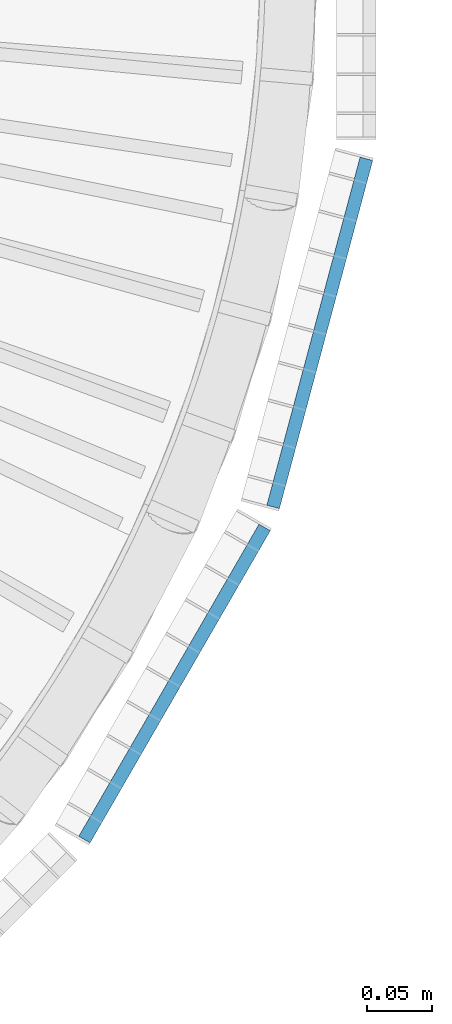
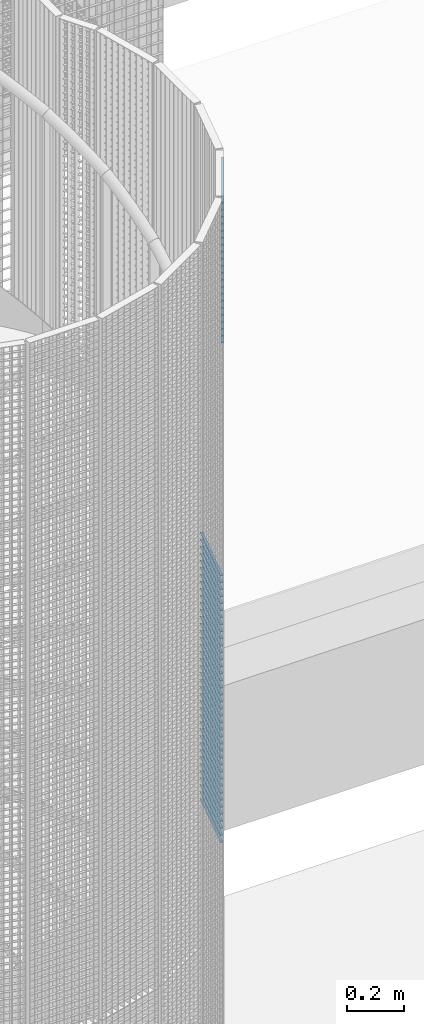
# One storey, part 221 of 1148: 60 beams, 2 elements without a shape of their own.
"""IFC2X3 building model written with IfcOpenShell, lengths in millimetres."""

from ifc_helpers import new_model, si_unit, frame, origin_with_axes, origin_2d_with_axis, place, context, subcontext, project, spatial, rectangle, extrude, material, type_object, element, aggregate, save


model = new_model("IFC2X3")

# Units and contexts
model_context = context("Model", 3, precision=1e-05, world=origin_with_axes())
body_context = subcontext(model_context, "Body", "Model", "MODEL_VIEW")
ifc_project = project(units=[si_unit("LENGTHUNIT", "METRE", prefix="MILLI"), si_unit("AREAUNIT", "SQUARE_METRE"), si_unit("VOLUMEUNIT", "CUBIC_METRE"), si_unit("MASSUNIT", "GRAM", prefix="KILO"), si_unit("TIMEUNIT", "SECOND"), si_unit("PLANEANGLEUNIT", "RADIAN"), si_unit("SOLIDANGLEUNIT", "STERADIAN"), si_unit("THERMODYNAMICTEMPERATUREUNIT", "DEGREE_CELSIUS"), si_unit("LUMINOUSINTENSITYUNIT", "LUMEN")], contexts=[model_context])

# Site, building, storey
site_placement = place(None, origin_with_axes())
site = spatial("IfcSite", under=ifc_project, at=site_placement, Name="Undefined", CompositionType="ELEMENT")
building_placement = place(site_placement, origin_with_axes())
building = spatial("IfcBuilding", under=site, at=building_placement, Name="Undefined", CompositionType="ELEMENT")
storey_placement = place(building_placement, origin_with_axes())
storey = spatial("IfcBuildingStorey", under=building, at=storey_placement, Name="Undefined", CompositionType="ELEMENT", Elevation=0.0)

# Assembly, beams
assembly_1_placement = place(storey_placement, origin_with_axes())
assembly_1 = element("IfcElementAssembly", 1, at=assembly_1_placement, inside=storey, Name="BORDURE", AssemblyPlace="NOTDEFINED", PredefinedType="NOTDEFINED")
ifc_material = material(Name="STEEL/S235JR")
beam_type = type_object("IfcBeamType", Name="PL2*10", PredefinedType="NOTDEFINED")
beam_1_placement = place(assembly_1_placement, frame((1039.82309522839, -421.483733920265, 16170.0), z_axis=(0.965925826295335, -0.258819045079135, 0.0), x_axis=(0.258819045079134, 0.965925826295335, 0.0)))
beam_1 = element("IfcBeam", 2, at=beam_1_placement, type_object=beam_type, material=ifc_material, Name="ENTRETOISE", context=body_context, shape_type="SweptSolid", body=[
    extrude(rectangle(XDim=2.0, YDim=10.0, at=origin_2d_with_axis()), frame((275.999999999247, 9.09494701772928e-13, 1.53210777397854e-14), z_axis=(-1.0, 0.0, 0.0), x_axis=(0.0, -1.0, 0.0)), (0.0, 0.0, 1.0), 276.0),
])
beam_2_placement = place(assembly_1_placement, frame((1039.82309522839, -421.483733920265, 16140.0), z_axis=(0.965925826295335, -0.258819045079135, 0.0), x_axis=(0.258819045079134, 0.965925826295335, 0.0)))
beam_2 = element("IfcBeam", 3, at=beam_2_placement, type_object=beam_type, material=ifc_material, Name="ENTRETOISE", context=body_context, shape_type="SweptSolid", body=[
    extrude(rectangle(XDim=2.0, YDim=10.0, at=origin_2d_with_axis()), frame((275.999999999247, 9.09494701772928e-13, 1.53210777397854e-14), z_axis=(-1.0, 0.0, 0.0), x_axis=(0.0, -1.0, 0.0)), (0.0, 0.0, 1.0), 276.0),
])
beam_3_placement = place(assembly_1_placement, frame((1039.82309522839, -421.483733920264, 15720.0), z_axis=(0.965925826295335, -0.258819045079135, 0.0), x_axis=(0.258819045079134, 0.965925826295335, 0.0)))
beam_3 = element("IfcBeam", 4, at=beam_3_placement, type_object=beam_type, material=ifc_material, Name="ENTRETOISE", context=body_context, shape_type="SweptSolid", body=[
    extrude(rectangle(XDim=2.0, YDim=10.0, at=origin_2d_with_axis()), frame((275.999999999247, 9.09494701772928e-13, 1.53210777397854e-14), z_axis=(-1.0, 0.0, 0.0), x_axis=(0.0, -1.0, 0.0)), (0.0, 0.0, 1.0), 276.0),
])
beam_4_placement = place(assembly_1_placement, frame((1039.82309522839, -421.483733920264, 15690.0), z_axis=(0.965925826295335, -0.258819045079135, 0.0), x_axis=(0.258819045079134, 0.965925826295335, 0.0)))
beam_4 = element("IfcBeam", 5, at=beam_4_placement, type_object=beam_type, material=ifc_material, Name="ENTRETOISE", context=body_context, shape_type="SweptSolid", body=[
    extrude(rectangle(XDim=2.0, YDim=10.0, at=origin_2d_with_axis()), frame((275.999999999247, 9.09494701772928e-13, 1.53210777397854e-14), z_axis=(-1.0, 0.0, 0.0), x_axis=(0.0, -1.0, 0.0)), (0.0, 0.0, 1.0), 276.0),
])
beam_5_placement = place(assembly_1_placement, frame((1039.82309522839, -421.483733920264, 15750.0), z_axis=(0.965925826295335, -0.258819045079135, 0.0), x_axis=(0.258819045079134, 0.965925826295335, 0.0)))
beam_5 = element("IfcBeam", 6, at=beam_5_placement, type_object=beam_type, material=ifc_material, Name="ENTRETOISE", context=body_context, shape_type="SweptSolid", body=[
    extrude(rectangle(XDim=2.0, YDim=10.0, at=origin_2d_with_axis()), frame((275.999999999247, 9.09494701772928e-13, 1.53210777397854e-14), z_axis=(-1.0, 0.0, 0.0), x_axis=(0.0, -1.0, 0.0)), (0.0, 0.0, 1.0), 276.0),
])
beam_6_placement = place(assembly_1_placement, frame((1039.82309522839, -421.483733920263, 15660.0), z_axis=(0.965925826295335, -0.258819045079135, 0.0), x_axis=(0.258819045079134, 0.965925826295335, 0.0)))
beam_6 = element("IfcBeam", 7, at=beam_6_placement, type_object=beam_type, material=ifc_material, Name="ENTRETOISE", context=body_context, shape_type="SweptSolid", body=[
    extrude(rectangle(XDim=2.0, YDim=10.0, at=origin_2d_with_axis()), frame((275.999999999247, 9.09494701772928e-13, 1.53210777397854e-14), z_axis=(-1.0, 0.0, 0.0), x_axis=(0.0, -1.0, 0.0)), (0.0, 0.0, 1.0), 276.0),
])
beam_7_placement = place(assembly_1_placement, frame((1039.82309522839, -421.483733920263, 15630.0), z_axis=(0.965925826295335, -0.258819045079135, 0.0), x_axis=(0.258819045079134, 0.965925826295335, 0.0)))
beam_7 = element("IfcBeam", 8, at=beam_7_placement, type_object=beam_type, material=ifc_material, Name="ENTRETOISE", context=body_context, shape_type="SweptSolid", body=[
    extrude(rectangle(XDim=2.0, YDim=10.0, at=origin_2d_with_axis()), frame((275.999999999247, 9.09494701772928e-13, 1.53210777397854e-14), z_axis=(-1.0, 0.0, 0.0), x_axis=(0.0, -1.0, 0.0)), (0.0, 0.0, 1.0), 276.0),
])
beam_8_placement = place(assembly_1_placement, frame((1039.82309522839, -421.483733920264, 15780.0), z_axis=(0.965925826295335, -0.258819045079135, 0.0), x_axis=(0.258819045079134, 0.965925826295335, 0.0)))
beam_8 = element("IfcBeam", 9, at=beam_8_placement, type_object=beam_type, material=ifc_material, Name="ENTRETOISE", context=body_context, shape_type="SweptSolid", body=[
    extrude(rectangle(XDim=2.0, YDim=10.0, at=origin_2d_with_axis()), frame((275.999999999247, 9.09494701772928e-13, 1.53210777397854e-14), z_axis=(-1.0, 0.0, 0.0), x_axis=(0.0, -1.0, 0.0)), (0.0, 0.0, 1.0), 276.0),
])
beam_9_placement = place(assembly_1_placement, frame((1039.82309522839, -421.483733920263, 15600.0), z_axis=(0.965925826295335, -0.258819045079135, 0.0), x_axis=(0.258819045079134, 0.965925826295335, 0.0)))
beam_9 = element("IfcBeam", 10, at=beam_9_placement, type_object=beam_type, material=ifc_material, Name="ENTRETOISE", context=body_context, shape_type="SweptSolid", body=[
    extrude(rectangle(XDim=2.0, YDim=10.0, at=origin_2d_with_axis()), frame((275.999999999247, 9.09494701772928e-13, 1.53210777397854e-14), z_axis=(-1.0, 0.0, 0.0), x_axis=(0.0, -1.0, 0.0)), (0.0, 0.0, 1.0), 276.0),
])
beam_10_placement = place(assembly_1_placement, frame((1039.82309522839, -421.483733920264, 15810.0), z_axis=(0.965925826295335, -0.258819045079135, 0.0), x_axis=(0.258819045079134, 0.965925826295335, 0.0)))
beam_10 = element("IfcBeam", 11, at=beam_10_placement, type_object=beam_type, material=ifc_material, Name="ENTRETOISE", context=body_context, shape_type="SweptSolid", body=[
    extrude(rectangle(XDim=2.0, YDim=10.0, at=origin_2d_with_axis()), frame((275.999999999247, 9.09494701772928e-13, 1.53210777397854e-14), z_axis=(-1.0, 0.0, 0.0), x_axis=(0.0, -1.0, 0.0)), (0.0, 0.0, 1.0), 276.0),
])
beam_11_placement = place(assembly_1_placement, frame((1039.82309522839, -421.483733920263, 15570.0), z_axis=(0.965925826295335, -0.258819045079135, 0.0), x_axis=(0.258819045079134, 0.965925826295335, 0.0)))
beam_11 = element("IfcBeam", 12, at=beam_11_placement, type_object=beam_type, material=ifc_material, Name="ENTRETOISE", context=body_context, shape_type="SweptSolid", body=[
    extrude(rectangle(XDim=2.0, YDim=10.0, at=origin_2d_with_axis()), frame((275.999999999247, 9.09494701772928e-13, 1.53210777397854e-14), z_axis=(-1.0, 0.0, 0.0), x_axis=(0.0, -1.0, 0.0)), (0.0, 0.0, 1.0), 276.0),
])
beam_12_placement = place(assembly_1_placement, frame((1039.82309522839, -421.483733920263, 15540.0), z_axis=(0.965925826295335, -0.258819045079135, 0.0), x_axis=(0.258819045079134, 0.965925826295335, 0.0)))
beam_12 = element("IfcBeam", 13, at=beam_12_placement, type_object=beam_type, material=ifc_material, Name="ENTRETOISE", context=body_context, shape_type="SweptSolid", body=[
    extrude(rectangle(XDim=2.0, YDim=10.0, at=origin_2d_with_axis()), frame((275.999999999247, 9.09494701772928e-13, 1.53210777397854e-14), z_axis=(-1.0, 0.0, 0.0), x_axis=(0.0, -1.0, 0.0)), (0.0, 0.0, 1.0), 276.0),
])
beam_13_placement = place(assembly_1_placement, frame((1039.82309522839, -421.483733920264, 15840.0), z_axis=(0.965925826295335, -0.258819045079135, 0.0), x_axis=(0.258819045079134, 0.965925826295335, 0.0)))
beam_13 = element("IfcBeam", 14, at=beam_13_placement, type_object=beam_type, material=ifc_material, Name="ENTRETOISE", context=body_context, shape_type="SweptSolid", body=[
    extrude(rectangle(XDim=2.0, YDim=10.0, at=origin_2d_with_axis()), frame((275.999999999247, 9.09494701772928e-13, 1.53210777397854e-14), z_axis=(-1.0, 0.0, 0.0), x_axis=(0.0, -1.0, 0.0)), (0.0, 0.0, 1.0), 276.0),
])
beam_14_placement = place(assembly_1_placement, frame((1039.82309522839, -421.483733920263, 15510.0), z_axis=(0.965925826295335, -0.258819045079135, 0.0), x_axis=(0.258819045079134, 0.965925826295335, 0.0)))
beam_14 = element("IfcBeam", 15, at=beam_14_placement, type_object=beam_type, material=ifc_material, Name="ENTRETOISE", context=body_context, shape_type="SweptSolid", body=[
    extrude(rectangle(XDim=2.0, YDim=10.0, at=origin_2d_with_axis()), frame((275.999999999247, 9.09494701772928e-13, 1.53210777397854e-14), z_axis=(-1.0, 0.0, 0.0), x_axis=(0.0, -1.0, 0.0)), (0.0, 0.0, 1.0), 276.0),
])
beam_15_placement = place(assembly_1_placement, frame((1039.82309522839, -421.483733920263, 15480.0), z_axis=(0.965925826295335, -0.258819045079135, 0.0), x_axis=(0.258819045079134, 0.965925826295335, 0.0)))
beam_15 = element("IfcBeam", 16, at=beam_15_placement, type_object=beam_type, material=ifc_material, Name="ENTRETOISE", context=body_context, shape_type="SweptSolid", body=[
    extrude(rectangle(XDim=2.0, YDim=10.0, at=origin_2d_with_axis()), frame((275.999999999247, 9.09494701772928e-13, 1.53210777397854e-14), z_axis=(-1.0, 0.0, 0.0), x_axis=(0.0, -1.0, 0.0)), (0.0, 0.0, 1.0), 276.0),
])
beam_16_placement = place(assembly_1_placement, frame((1039.82309522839, -421.483733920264, 15870.0), z_axis=(0.965925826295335, -0.258819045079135, 0.0), x_axis=(0.258819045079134, 0.965925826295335, 0.0)))
beam_16 = element("IfcBeam", 17, at=beam_16_placement, type_object=beam_type, material=ifc_material, Name="ENTRETOISE", context=body_context, shape_type="SweptSolid", body=[
    extrude(rectangle(XDim=2.0, YDim=10.0, at=origin_2d_with_axis()), frame((275.999999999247, 9.09494701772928e-13, 1.53210777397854e-14), z_axis=(-1.0, 0.0, 0.0), x_axis=(0.0, -1.0, 0.0)), (0.0, 0.0, 1.0), 276.0),
])
beam_17_placement = place(assembly_1_placement, frame((1039.82309522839, -421.483733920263, 15450.0), z_axis=(0.965925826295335, -0.258819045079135, 0.0), x_axis=(0.258819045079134, 0.965925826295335, 0.0)))
beam_17 = element("IfcBeam", 18, at=beam_17_placement, type_object=beam_type, material=ifc_material, Name="ENTRETOISE", context=body_context, shape_type="SweptSolid", body=[
    extrude(rectangle(XDim=2.0, YDim=10.0, at=origin_2d_with_axis()), frame((275.999999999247, 9.09494701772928e-13, 1.53210777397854e-14), z_axis=(-1.0, 0.0, 0.0), x_axis=(0.0, -1.0, 0.0)), (0.0, 0.0, 1.0), 276.0),
])
beam_18_placement = place(assembly_1_placement, frame((1039.82309522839, -421.483733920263, 15420.0), z_axis=(0.965925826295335, -0.258819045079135, 0.0), x_axis=(0.258819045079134, 0.965925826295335, 0.0)))
beam_18 = element("IfcBeam", 19, at=beam_18_placement, type_object=beam_type, material=ifc_material, Name="ENTRETOISE", context=body_context, shape_type="SweptSolid", body=[
    extrude(rectangle(XDim=2.0, YDim=10.0, at=origin_2d_with_axis()), frame((275.999999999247, 9.09494701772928e-13, 1.53210777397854e-14), z_axis=(-1.0, 0.0, 0.0), x_axis=(0.0, -1.0, 0.0)), (0.0, 0.0, 1.0), 276.0),
])
beam_19_placement = place(assembly_1_placement, frame((1039.82309522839, -421.483733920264, 15900.0), z_axis=(0.965925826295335, -0.258819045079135, 0.0), x_axis=(0.258819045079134, 0.965925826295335, 0.0)))
beam_19 = element("IfcBeam", 20, at=beam_19_placement, type_object=beam_type, material=ifc_material, Name="ENTRETOISE", context=body_context, shape_type="SweptSolid", body=[
    extrude(rectangle(XDim=2.0, YDim=10.0, at=origin_2d_with_axis()), frame((275.999999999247, 9.09494701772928e-13, 1.53210777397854e-14), z_axis=(-1.0, 0.0, 0.0), x_axis=(0.0, -1.0, 0.0)), (0.0, 0.0, 1.0), 276.0),
])
beam_20_placement = place(assembly_1_placement, frame((1039.82309522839, -421.483733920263, 15390.0), z_axis=(0.965925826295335, -0.258819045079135, 0.0), x_axis=(0.258819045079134, 0.965925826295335, 0.0)))
beam_20 = element("IfcBeam", 21, at=beam_20_placement, type_object=beam_type, material=ifc_material, Name="ENTRETOISE", context=body_context, shape_type="SweptSolid", body=[
    extrude(rectangle(XDim=2.0, YDim=10.0, at=origin_2d_with_axis()), frame((275.999999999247, 9.09494701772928e-13, 1.53210777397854e-14), z_axis=(-1.0, 0.0, 0.0), x_axis=(0.0, -1.0, 0.0)), (0.0, 0.0, 1.0), 276.0),
])
beam_21_placement = place(assembly_1_placement, frame((1039.82309522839, -421.483733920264, 15930.0), z_axis=(0.965925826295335, -0.258819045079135, 0.0), x_axis=(0.258819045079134, 0.965925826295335, 0.0)))
beam_21 = element("IfcBeam", 22, at=beam_21_placement, type_object=beam_type, material=ifc_material, Name="ENTRETOISE", context=body_context, shape_type="SweptSolid", body=[
    extrude(rectangle(XDim=2.0, YDim=10.0, at=origin_2d_with_axis()), frame((275.999999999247, 9.09494701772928e-13, 1.53210777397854e-14), z_axis=(-1.0, 0.0, 0.0), x_axis=(0.0, -1.0, 0.0)), (0.0, 0.0, 1.0), 276.0),
])
beam_22_placement = place(assembly_1_placement, frame((1039.82309522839, -421.483733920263, 15360.0), z_axis=(0.965925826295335, -0.258819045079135, 0.0), x_axis=(0.258819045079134, 0.965925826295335, 0.0)))
beam_22 = element("IfcBeam", 23, at=beam_22_placement, type_object=beam_type, material=ifc_material, Name="ENTRETOISE", context=body_context, shape_type="SweptSolid", body=[
    extrude(rectangle(XDim=2.0, YDim=10.0, at=origin_2d_with_axis()), frame((275.999999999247, 9.09494701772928e-13, 1.53210777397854e-14), z_axis=(-1.0, 0.0, 0.0), x_axis=(0.0, -1.0, 0.0)), (0.0, 0.0, 1.0), 276.0),
])
beam_23_placement = place(assembly_1_placement, frame((1039.82309522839, -421.483733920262, 15330.0), z_axis=(0.965925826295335, -0.258819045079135, 0.0), x_axis=(0.258819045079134, 0.965925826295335, 0.0)))
beam_23 = element("IfcBeam", 24, at=beam_23_placement, type_object=beam_type, material=ifc_material, Name="ENTRETOISE", context=body_context, shape_type="SweptSolid", body=[
    extrude(rectangle(XDim=2.0, YDim=10.0, at=origin_2d_with_axis()), frame((275.999999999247, 9.09494701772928e-13, 1.53210777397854e-14), z_axis=(-1.0, 0.0, 0.0), x_axis=(0.0, -1.0, 0.0)), (0.0, 0.0, 1.0), 276.0),
])
beam_24_placement = place(assembly_1_placement, frame((1039.82309522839, -421.483733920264, 15960.0), z_axis=(0.965925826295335, -0.258819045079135, 0.0), x_axis=(0.258819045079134, 0.965925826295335, 0.0)))
beam_24 = element("IfcBeam", 25, at=beam_24_placement, type_object=beam_type, material=ifc_material, Name="ENTRETOISE", context=body_context, shape_type="SweptSolid", body=[
    extrude(rectangle(XDim=2.0, YDim=10.0, at=origin_2d_with_axis()), frame((275.999999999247, 9.09494701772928e-13, 1.53210777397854e-14), z_axis=(-1.0, 0.0, 0.0), x_axis=(0.0, -1.0, 0.0)), (0.0, 0.0, 1.0), 276.0),
])
beam_25_placement = place(assembly_1_placement, frame((1039.82309522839, -421.483733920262, 15300.0), z_axis=(0.965925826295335, -0.258819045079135, 0.0), x_axis=(0.258819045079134, 0.965925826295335, 0.0)))
beam_25 = element("IfcBeam", 26, at=beam_25_placement, type_object=beam_type, material=ifc_material, Name="ENTRETOISE", context=body_context, shape_type="SweptSolid", body=[
    extrude(rectangle(XDim=2.0, YDim=10.0, at=origin_2d_with_axis()), frame((275.999999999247, 9.09494701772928e-13, 1.53210777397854e-14), z_axis=(-1.0, 0.0, 0.0), x_axis=(0.0, -1.0, 0.0)), (0.0, 0.0, 1.0), 276.0),
])
beam_26_placement = place(assembly_1_placement, frame((1039.82309522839, -421.483733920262, 15270.0), z_axis=(0.965925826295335, -0.258819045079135, 0.0), x_axis=(0.258819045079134, 0.965925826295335, 0.0)))
beam_26 = element("IfcBeam", 27, at=beam_26_placement, type_object=beam_type, material=ifc_material, Name="ENTRETOISE", context=body_context, shape_type="SweptSolid", body=[
    extrude(rectangle(XDim=2.0, YDim=10.0, at=origin_2d_with_axis()), frame((275.999999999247, 9.09494701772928e-13, 1.53210777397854e-14), z_axis=(-1.0, 0.0, 0.0), x_axis=(0.0, -1.0, 0.0)), (0.0, 0.0, 1.0), 276.0),
])
beam_27_placement = place(assembly_1_placement, frame((1039.82309522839, -421.483733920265, 15990.0), z_axis=(0.965925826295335, -0.258819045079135, 0.0), x_axis=(0.258819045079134, 0.965925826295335, 0.0)))
beam_27 = element("IfcBeam", 28, at=beam_27_placement, type_object=beam_type, material=ifc_material, Name="ENTRETOISE", context=body_context, shape_type="SweptSolid", body=[
    extrude(rectangle(XDim=2.0, YDim=10.0, at=origin_2d_with_axis()), frame((275.999999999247, 9.09494701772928e-13, 1.53210777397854e-14), z_axis=(-1.0, 0.0, 0.0), x_axis=(0.0, -1.0, 0.0)), (0.0, 0.0, 1.0), 276.0),
])
beam_28_placement = place(assembly_1_placement, frame((1039.82309522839, -421.483733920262, 15240.0), z_axis=(0.965925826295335, -0.258819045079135, 0.0), x_axis=(0.258819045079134, 0.965925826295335, 0.0)))
beam_28 = element("IfcBeam", 29, at=beam_28_placement, type_object=beam_type, material=ifc_material, Name="ENTRETOISE", context=body_context, shape_type="SweptSolid", body=[
    extrude(rectangle(XDim=2.0, YDim=10.0, at=origin_2d_with_axis()), frame((275.999999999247, 9.09494701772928e-13, 1.53210777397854e-14), z_axis=(-1.0, 0.0, 0.0), x_axis=(0.0, -1.0, 0.0)), (0.0, 0.0, 1.0), 276.0),
])
beam_29_placement = place(assembly_1_placement, frame((1039.82309522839, -421.483733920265, 16020.0), z_axis=(0.965925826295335, -0.258819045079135, 0.0), x_axis=(0.258819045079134, 0.965925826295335, 0.0)))
beam_29 = element("IfcBeam", 30, at=beam_29_placement, type_object=beam_type, material=ifc_material, Name="ENTRETOISE", context=body_context, shape_type="SweptSolid", body=[
    extrude(rectangle(XDim=2.0, YDim=10.0, at=origin_2d_with_axis()), frame((275.999999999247, 9.09494701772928e-13, 1.53210777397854e-14), z_axis=(-1.0, 0.0, 0.0), x_axis=(0.0, -1.0, 0.0)), (0.0, 0.0, 1.0), 276.0),
])
beam_30_placement = place(assembly_1_placement, frame((1039.82309522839, -421.483733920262, 15210.0), z_axis=(0.965925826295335, -0.258819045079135, 0.0), x_axis=(0.258819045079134, 0.965925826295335, 0.0)))
beam_30 = element("IfcBeam", 31, at=beam_30_placement, type_object=beam_type, material=ifc_material, Name="ENTRETOISE", context=body_context, shape_type="SweptSolid", body=[
    extrude(rectangle(XDim=2.0, YDim=10.0, at=origin_2d_with_axis()), frame((275.999999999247, 9.09494701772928e-13, 1.53210777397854e-14), z_axis=(-1.0, 0.0, 0.0), x_axis=(0.0, -1.0, 0.0)), (0.0, 0.0, 1.0), 276.0),
])
beam_31_placement = place(assembly_1_placement, frame((1039.82309522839, -421.483733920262, 15180.0), z_axis=(0.965925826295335, -0.258819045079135, 0.0), x_axis=(0.258819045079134, 0.965925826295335, 0.0)))
beam_31 = element("IfcBeam", 32, at=beam_31_placement, type_object=beam_type, material=ifc_material, Name="ENTRETOISE", context=body_context, shape_type="SweptSolid", body=[
    extrude(rectangle(XDim=2.0, YDim=10.0, at=origin_2d_with_axis()), frame((275.999999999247, 9.09494701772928e-13, 1.53210777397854e-14), z_axis=(-1.0, 0.0, 0.0), x_axis=(0.0, -1.0, 0.0)), (0.0, 0.0, 1.0), 276.0),
])
beam_32_placement = place(assembly_1_placement, frame((1039.82309522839, -421.483733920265, 16050.0), z_axis=(0.965925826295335, -0.258819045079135, 0.0), x_axis=(0.258819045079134, 0.965925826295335, 0.0)))
beam_32 = element("IfcBeam", 33, at=beam_32_placement, type_object=beam_type, material=ifc_material, Name="ENTRETOISE", context=body_context, shape_type="SweptSolid", body=[
    extrude(rectangle(XDim=2.0, YDim=10.0, at=origin_2d_with_axis()), frame((275.999999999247, 9.09494701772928e-13, 1.53210777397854e-14), z_axis=(-1.0, 0.0, 0.0), x_axis=(0.0, -1.0, 0.0)), (0.0, 0.0, 1.0), 276.0),
])
beam_33_placement = place(assembly_1_placement, frame((1039.82309522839, -421.483733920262, 15150.0), z_axis=(0.965925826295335, -0.258819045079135, 0.0), x_axis=(0.258819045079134, 0.965925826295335, 0.0)))
beam_33 = element("IfcBeam", 34, at=beam_33_placement, type_object=beam_type, material=ifc_material, Name="ENTRETOISE", context=body_context, shape_type="SweptSolid", body=[
    extrude(rectangle(XDim=2.0, YDim=10.0, at=origin_2d_with_axis()), frame((275.999999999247, 9.09494701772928e-13, 1.53210777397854e-14), z_axis=(-1.0, 0.0, 0.0), x_axis=(0.0, -1.0, 0.0)), (0.0, 0.0, 1.0), 276.0),
])
beam_34_placement = place(assembly_1_placement, frame((1039.82309522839, -421.483733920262, 15120.0), z_axis=(0.965925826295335, -0.258819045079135, 0.0), x_axis=(0.258819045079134, 0.965925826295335, 0.0)))
beam_34 = element("IfcBeam", 35, at=beam_34_placement, type_object=beam_type, material=ifc_material, Name="ENTRETOISE", context=body_context, shape_type="SweptSolid", body=[
    extrude(rectangle(XDim=2.0, YDim=10.0, at=origin_2d_with_axis()), frame((275.999999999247, 9.09494701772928e-13, 1.53210777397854e-14), z_axis=(-1.0, 0.0, 0.0), x_axis=(0.0, -1.0, 0.0)), (0.0, 0.0, 1.0), 276.0),
])
beam_35_placement = place(assembly_1_placement, frame((1039.82309522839, -421.483733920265, 16080.0), z_axis=(0.965925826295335, -0.258819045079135, 0.0), x_axis=(0.258819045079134, 0.965925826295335, 0.0)))
beam_35 = element("IfcBeam", 36, at=beam_35_placement, type_object=beam_type, material=ifc_material, Name="ENTRETOISE", context=body_context, shape_type="SweptSolid", body=[
    extrude(rectangle(XDim=2.0, YDim=10.0, at=origin_2d_with_axis()), frame((275.999999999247, 9.09494701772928e-13, 1.53210777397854e-14), z_axis=(-1.0, 0.0, 0.0), x_axis=(0.0, -1.0, 0.0)), (0.0, 0.0, 1.0), 276.0),
])
beam_36_placement = place(assembly_1_placement, frame((1039.82309522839, -421.483733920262, 15090.0), z_axis=(0.965925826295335, -0.258819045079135, 0.0), x_axis=(0.258819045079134, 0.965925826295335, 0.0)))
beam_36 = element("IfcBeam", 37, at=beam_36_placement, type_object=beam_type, material=ifc_material, Name="ENTRETOISE", context=body_context, shape_type="SweptSolid", body=[
    extrude(rectangle(XDim=2.0, YDim=10.0, at=origin_2d_with_axis()), frame((275.999999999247, 9.09494701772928e-13, 1.53210777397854e-14), z_axis=(-1.0, 0.0, 0.0), x_axis=(0.0, -1.0, 0.0)), (0.0, 0.0, 1.0), 276.0),
])
beam_37_placement = place(assembly_1_placement, frame((1039.82309522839, -421.483733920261, 15060.0), z_axis=(0.965925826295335, -0.258819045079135, 0.0), x_axis=(0.258819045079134, 0.965925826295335, 0.0)))
beam_37 = element("IfcBeam", 38, at=beam_37_placement, type_object=beam_type, material=ifc_material, Name="ENTRETOISE", context=body_context, shape_type="SweptSolid", body=[
    extrude(rectangle(XDim=2.0, YDim=10.0, at=origin_2d_with_axis()), frame((275.999999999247, 9.09494701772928e-13, 1.53210777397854e-14), z_axis=(-1.0, 0.0, 0.0), x_axis=(0.0, -1.0, 0.0)), (0.0, 0.0, 1.0), 276.0),
])
beam_38_placement = place(assembly_1_placement, frame((1039.82309522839, -421.483733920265, 16110.0), z_axis=(0.965925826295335, -0.258819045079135, 0.0), x_axis=(0.258819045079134, 0.965925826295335, 0.0)))
beam_38 = element("IfcBeam", 39, at=beam_38_placement, type_object=beam_type, material=ifc_material, Name="ENTRETOISE", context=body_context, shape_type="SweptSolid", body=[
    extrude(rectangle(XDim=2.0, YDim=10.0, at=origin_2d_with_axis()), frame((275.999999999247, 9.09494701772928e-13, 1.53210777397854e-14), z_axis=(-1.0, 0.0, 0.0), x_axis=(0.0, -1.0, 0.0)), (0.0, 0.0, 1.0), 276.0),
])
beam_39_placement = place(assembly_1_placement, frame((1039.82309522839, -421.48373392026, 15030.0), z_axis=(0.965925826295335, -0.258819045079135, 0.0), x_axis=(0.258819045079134, 0.965925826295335, 0.0)))
beam_39 = element("IfcBeam", 40, at=beam_39_placement, type_object=beam_type, material=ifc_material, Name="ENTRETOISE", context=body_context, shape_type="SweptSolid", body=[
    extrude(rectangle(XDim=2.0, YDim=10.0, at=origin_2d_with_axis()), frame((275.999999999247, 9.09494701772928e-13, 1.53210777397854e-14), z_axis=(-1.0, 0.0, 0.0), x_axis=(0.0, -1.0, 0.0)), (0.0, 0.0, 1.0), 276.0),
])
aggregate(assembly_1, [beam_1, beam_2, beam_3, beam_4, beam_5, beam_6, beam_7, beam_8, beam_9, beam_10, beam_11, beam_12, beam_13, beam_14, beam_15, beam_16, beam_17, beam_18, beam_19, beam_20, beam_21, beam_22, beam_23, beam_24, beam_25, beam_26, beam_27, beam_28, beam_29, beam_30, beam_31, beam_32, beam_33, beam_34, beam_35, beam_36, beam_37, beam_38, beam_39])

assembly_2_placement = place(storey_placement, origin_with_axes())
assembly_2 = element("IfcElementAssembly", 41, at=assembly_2_placement, inside=storey, Name="BORDURE", AssemblyPlace="NOTDEFINED", PredefinedType="NOTDEFINED")
beam_40_placement = place(assembly_2_placement, frame((895.303964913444, -676.248044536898, 17970.0), z_axis=(0.866025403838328, -0.49999999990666, 0.0), x_axis=(0.49999999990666, 0.866025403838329, 0.0)))
beam_40 = element("IfcBeam", 42, at=beam_40_placement, type_object=beam_type, material=ifc_material, Name="ENTRETOISE", context=body_context, shape_type="SweptSolid", body=[
    extrude(rectangle(XDim=2.0, YDim=10.0, at=origin_2d_with_axis()), frame((275.999999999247, 9.09494701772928e-13, 1.53210777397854e-14), z_axis=(-1.0, 0.0, 0.0), x_axis=(0.0, -1.0, 0.0)), (0.0, 0.0, 1.0), 276.0),
])
beam_41_placement = place(assembly_2_placement, frame((895.303964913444, -676.248044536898, 17940.0), z_axis=(0.866025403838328, -0.49999999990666, 0.0), x_axis=(0.49999999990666, 0.866025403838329, 0.0)))
beam_41 = element("IfcBeam", 43, at=beam_41_placement, type_object=beam_type, material=ifc_material, Name="ENTRETOISE", context=body_context, shape_type="SweptSolid", body=[
    extrude(rectangle(XDim=2.0, YDim=10.0, at=origin_2d_with_axis()), frame((275.999999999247, 9.09494701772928e-13, 1.53210777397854e-14), z_axis=(-1.0, 0.0, 0.0), x_axis=(0.0, -1.0, 0.0)), (0.0, 0.0, 1.0), 276.0),
])
beam_42_placement = place(assembly_2_placement, frame((895.303964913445, -676.248044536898, 17910.0), z_axis=(0.866025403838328, -0.49999999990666, 0.0), x_axis=(0.49999999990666, 0.866025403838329, 0.0)))
beam_42 = element("IfcBeam", 44, at=beam_42_placement, type_object=beam_type, material=ifc_material, Name="ENTRETOISE", context=body_context, shape_type="SweptSolid", body=[
    extrude(rectangle(XDim=2.0, YDim=10.0, at=origin_2d_with_axis()), frame((275.999999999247, 9.09494701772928e-13, 1.53210777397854e-14), z_axis=(-1.0, 0.0, 0.0), x_axis=(0.0, -1.0, 0.0)), (0.0, 0.0, 1.0), 276.0),
])
beam_43_placement = place(assembly_2_placement, frame((895.303964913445, -676.248044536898, 17880.0), z_axis=(0.866025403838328, -0.49999999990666, 0.0), x_axis=(0.49999999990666, 0.866025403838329, 0.0)))
beam_43 = element("IfcBeam", 45, at=beam_43_placement, type_object=beam_type, material=ifc_material, Name="ENTRETOISE", context=body_context, shape_type="SweptSolid", body=[
    extrude(rectangle(XDim=2.0, YDim=10.0, at=origin_2d_with_axis()), frame((275.999999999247, 9.09494701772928e-13, 1.53210777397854e-14), z_axis=(-1.0, 0.0, 0.0), x_axis=(0.0, -1.0, 0.0)), (0.0, 0.0, 1.0), 276.0),
])
beam_44_placement = place(assembly_2_placement, frame((895.303964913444, -676.248044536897, 17850.0), z_axis=(0.866025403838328, -0.49999999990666, 0.0), x_axis=(0.49999999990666, 0.866025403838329, 0.0)))
beam_44 = element("IfcBeam", 46, at=beam_44_placement, type_object=beam_type, material=ifc_material, Name="ENTRETOISE", context=body_context, shape_type="SweptSolid", body=[
    extrude(rectangle(XDim=2.0, YDim=10.0, at=origin_2d_with_axis()), frame((275.999999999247, 9.09494701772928e-13, 1.53210777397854e-14), z_axis=(-1.0, 0.0, 0.0), x_axis=(0.0, -1.0, 0.0)), (0.0, 0.0, 1.0), 276.0),
])
beam_45_placement = place(assembly_2_placement, frame((895.303964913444, -676.248044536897, 17820.0), z_axis=(0.866025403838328, -0.49999999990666, 0.0), x_axis=(0.49999999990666, 0.866025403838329, 0.0)))
beam_45 = element("IfcBeam", 47, at=beam_45_placement, type_object=beam_type, material=ifc_material, Name="ENTRETOISE", context=body_context, shape_type="SweptSolid", body=[
    extrude(rectangle(XDim=2.0, YDim=10.0, at=origin_2d_with_axis()), frame((275.999999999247, 9.09494701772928e-13, 1.53210777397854e-14), z_axis=(-1.0, 0.0, 0.0), x_axis=(0.0, -1.0, 0.0)), (0.0, 0.0, 1.0), 276.0),
])
beam_46_placement = place(assembly_2_placement, frame((895.303964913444, -676.248044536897, 17790.0), z_axis=(0.866025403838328, -0.49999999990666, 0.0), x_axis=(0.49999999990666, 0.866025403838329, 0.0)))
beam_46 = element("IfcBeam", 48, at=beam_46_placement, type_object=beam_type, material=ifc_material, Name="ENTRETOISE", context=body_context, shape_type="SweptSolid", body=[
    extrude(rectangle(XDim=2.0, YDim=10.0, at=origin_2d_with_axis()), frame((275.999999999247, 9.09494701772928e-13, 1.53210777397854e-14), z_axis=(-1.0, 0.0, 0.0), x_axis=(0.0, -1.0, 0.0)), (0.0, 0.0, 1.0), 276.0),
])
beam_47_placement = place(assembly_2_placement, frame((895.303964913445, -676.248044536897, 17760.0), z_axis=(0.866025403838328, -0.49999999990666, 0.0), x_axis=(0.49999999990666, 0.866025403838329, 0.0)))
beam_47 = element("IfcBeam", 49, at=beam_47_placement, type_object=beam_type, material=ifc_material, Name="ENTRETOISE", context=body_context, shape_type="SweptSolid", body=[
    extrude(rectangle(XDim=2.0, YDim=10.0, at=origin_2d_with_axis()), frame((275.999999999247, 9.09494701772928e-13, 1.53210777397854e-14), z_axis=(-1.0, 0.0, 0.0), x_axis=(0.0, -1.0, 0.0)), (0.0, 0.0, 1.0), 276.0),
])
beam_48_placement = place(assembly_2_placement, frame((895.303964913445, -676.248044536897, 17730.0), z_axis=(0.866025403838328, -0.49999999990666, 0.0), x_axis=(0.49999999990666, 0.866025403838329, 0.0)))
beam_48 = element("IfcBeam", 50, at=beam_48_placement, type_object=beam_type, material=ifc_material, Name="ENTRETOISE", context=body_context, shape_type="SweptSolid", body=[
    extrude(rectangle(XDim=2.0, YDim=10.0, at=origin_2d_with_axis()), frame((275.999999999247, 9.09494701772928e-13, 1.53210777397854e-14), z_axis=(-1.0, 0.0, 0.0), x_axis=(0.0, -1.0, 0.0)), (0.0, 0.0, 1.0), 276.0),
])
beam_49_placement = place(assembly_2_placement, frame((895.303964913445, -676.248044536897, 17700.0), z_axis=(0.866025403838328, -0.49999999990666, 0.0), x_axis=(0.49999999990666, 0.866025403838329, 0.0)))
beam_49 = element("IfcBeam", 51, at=beam_49_placement, type_object=beam_type, material=ifc_material, Name="ENTRETOISE", context=body_context, shape_type="SweptSolid", body=[
    extrude(rectangle(XDim=2.0, YDim=10.0, at=origin_2d_with_axis()), frame((275.999999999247, 9.09494701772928e-13, 1.53210777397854e-14), z_axis=(-1.0, 0.0, 0.0), x_axis=(0.0, -1.0, 0.0)), (0.0, 0.0, 1.0), 276.0),
])
beam_50_placement = place(assembly_2_placement, frame((895.303964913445, -676.248044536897, 17670.0), z_axis=(0.866025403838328, -0.49999999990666, 0.0), x_axis=(0.49999999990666, 0.866025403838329, 0.0)))
beam_50 = element("IfcBeam", 52, at=beam_50_placement, type_object=beam_type, material=ifc_material, Name="ENTRETOISE", context=body_context, shape_type="SweptSolid", body=[
    extrude(rectangle(XDim=2.0, YDim=10.0, at=origin_2d_with_axis()), frame((275.999999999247, 9.09494701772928e-13, 1.53210777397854e-14), z_axis=(-1.0, 0.0, 0.0), x_axis=(0.0, -1.0, 0.0)), (0.0, 0.0, 1.0), 276.0),
])
beam_51_placement = place(assembly_2_placement, frame((895.303964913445, -676.248044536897, 17640.0), z_axis=(0.866025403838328, -0.49999999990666, 0.0), x_axis=(0.49999999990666, 0.866025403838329, 0.0)))
beam_51 = element("IfcBeam", 53, at=beam_51_placement, type_object=beam_type, material=ifc_material, Name="ENTRETOISE", context=body_context, shape_type="SweptSolid", body=[
    extrude(rectangle(XDim=2.0, YDim=10.0, at=origin_2d_with_axis()), frame((275.999999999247, 9.09494701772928e-13, 1.53210777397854e-14), z_axis=(-1.0, 0.0, 0.0), x_axis=(0.0, -1.0, 0.0)), (0.0, 0.0, 1.0), 276.0),
])
beam_52_placement = place(assembly_2_placement, frame((895.303964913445, -676.248044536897, 17610.0), z_axis=(0.866025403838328, -0.49999999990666, 0.0), x_axis=(0.49999999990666, 0.866025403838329, 0.0)))
beam_52 = element("IfcBeam", 54, at=beam_52_placement, type_object=beam_type, material=ifc_material, Name="ENTRETOISE", context=body_context, shape_type="SweptSolid", body=[
    extrude(rectangle(XDim=2.0, YDim=10.0, at=origin_2d_with_axis()), frame((275.999999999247, 9.09494701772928e-13, 1.53210777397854e-14), z_axis=(-1.0, 0.0, 0.0), x_axis=(0.0, -1.0, 0.0)), (0.0, 0.0, 1.0), 276.0),
])
beam_53_placement = place(assembly_2_placement, frame((895.303964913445, -676.248044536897, 17580.0), z_axis=(0.866025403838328, -0.49999999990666, 0.0), x_axis=(0.49999999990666, 0.866025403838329, 0.0)))
beam_53 = element("IfcBeam", 55, at=beam_53_placement, type_object=beam_type, material=ifc_material, Name="ENTRETOISE", context=body_context, shape_type="SweptSolid", body=[
    extrude(rectangle(XDim=2.0, YDim=10.0, at=origin_2d_with_axis()), frame((275.999999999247, 9.09494701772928e-13, 1.53210777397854e-14), z_axis=(-1.0, 0.0, 0.0), x_axis=(0.0, -1.0, 0.0)), (0.0, 0.0, 1.0), 276.0),
])
beam_54_placement = place(assembly_2_placement, frame((895.303964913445, -676.248044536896, 17550.0), z_axis=(0.866025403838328, -0.49999999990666, 0.0), x_axis=(0.49999999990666, 0.866025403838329, 0.0)))
beam_54 = element("IfcBeam", 56, at=beam_54_placement, type_object=beam_type, material=ifc_material, Name="ENTRETOISE", context=body_context, shape_type="SweptSolid", body=[
    extrude(rectangle(XDim=2.0, YDim=10.0, at=origin_2d_with_axis()), frame((275.999999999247, 9.09494701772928e-13, 1.53210777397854e-14), z_axis=(-1.0, 0.0, 0.0), x_axis=(0.0, -1.0, 0.0)), (0.0, 0.0, 1.0), 276.0),
])
beam_55_placement = place(assembly_2_placement, frame((895.303964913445, -676.248044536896, 17520.0), z_axis=(0.866025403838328, -0.49999999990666, 0.0), x_axis=(0.49999999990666, 0.866025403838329, 0.0)))
beam_55 = element("IfcBeam", 57, at=beam_55_placement, type_object=beam_type, material=ifc_material, Name="ENTRETOISE", context=body_context, shape_type="SweptSolid", body=[
    extrude(rectangle(XDim=2.0, YDim=10.0, at=origin_2d_with_axis()), frame((275.999999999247, 9.09494701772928e-13, 1.53210777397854e-14), z_axis=(-1.0, 0.0, 0.0), x_axis=(0.0, -1.0, 0.0)), (0.0, 0.0, 1.0), 276.0),
])
beam_56_placement = place(assembly_2_placement, frame((895.303964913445, -676.248044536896, 17490.0), z_axis=(0.866025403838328, -0.49999999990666, 0.0), x_axis=(0.49999999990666, 0.866025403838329, 0.0)))
beam_56 = element("IfcBeam", 58, at=beam_56_placement, type_object=beam_type, material=ifc_material, Name="ENTRETOISE", context=body_context, shape_type="SweptSolid", body=[
    extrude(rectangle(XDim=2.0, YDim=10.0, at=origin_2d_with_axis()), frame((275.999999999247, 9.09494701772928e-13, 1.53210777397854e-14), z_axis=(-1.0, 0.0, 0.0), x_axis=(0.0, -1.0, 0.0)), (0.0, 0.0, 1.0), 276.0),
])
beam_57_placement = place(assembly_2_placement, frame((895.303964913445, -676.248044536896, 17460.0), z_axis=(0.866025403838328, -0.49999999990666, 0.0), x_axis=(0.49999999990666, 0.866025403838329, 0.0)))
beam_57 = element("IfcBeam", 59, at=beam_57_placement, type_object=beam_type, material=ifc_material, Name="ENTRETOISE", context=body_context, shape_type="SweptSolid", body=[
    extrude(rectangle(XDim=2.0, YDim=10.0, at=origin_2d_with_axis()), frame((275.999999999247, 9.09494701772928e-13, 1.53210777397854e-14), z_axis=(-1.0, 0.0, 0.0), x_axis=(0.0, -1.0, 0.0)), (0.0, 0.0, 1.0), 276.0),
])
beam_58_placement = place(assembly_2_placement, frame((895.303964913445, -676.248044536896, 17430.0), z_axis=(0.866025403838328, -0.49999999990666, 0.0), x_axis=(0.49999999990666, 0.866025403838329, 0.0)))
beam_58 = element("IfcBeam", 60, at=beam_58_placement, type_object=beam_type, material=ifc_material, Name="ENTRETOISE", context=body_context, shape_type="SweptSolid", body=[
    extrude(rectangle(XDim=2.0, YDim=10.0, at=origin_2d_with_axis()), frame((275.999999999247, 9.09494701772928e-13, 1.53210777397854e-14), z_axis=(-1.0, 0.0, 0.0), x_axis=(0.0, -1.0, 0.0)), (0.0, 0.0, 1.0), 276.0),
])
beam_59_placement = place(assembly_2_placement, frame((895.303964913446, -676.248044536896, 17400.0), z_axis=(0.866025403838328, -0.49999999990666, 0.0), x_axis=(0.49999999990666, 0.866025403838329, 0.0)))
beam_59 = element("IfcBeam", 61, at=beam_59_placement, type_object=beam_type, material=ifc_material, Name="ENTRETOISE", context=body_context, shape_type="SweptSolid", body=[
    extrude(rectangle(XDim=2.0, YDim=10.0, at=origin_2d_with_axis()), frame((275.999999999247, 9.09494701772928e-13, 1.53210777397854e-14), z_axis=(-1.0, 0.0, 0.0), x_axis=(0.0, -1.0, 0.0)), (0.0, 0.0, 1.0), 276.0),
])
beam_60_placement = place(assembly_2_placement, frame((895.303964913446, -676.248044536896, 17370.0), z_axis=(0.866025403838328, -0.49999999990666, 0.0), x_axis=(0.49999999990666, 0.866025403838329, 0.0)))
beam_60 = element("IfcBeam", 62, at=beam_60_placement, type_object=beam_type, material=ifc_material, Name="ENTRETOISE", context=body_context, shape_type="SweptSolid", body=[
    extrude(rectangle(XDim=2.0, YDim=10.0, at=origin_2d_with_axis()), frame((275.999999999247, 9.09494701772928e-13, 1.53210777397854e-14), z_axis=(-1.0, 0.0, 0.0), x_axis=(0.0, -1.0, 0.0)), (0.0, 0.0, 1.0), 276.0),
])
aggregate(assembly_2, [beam_40, beam_41, beam_42, beam_43, beam_44, beam_45, beam_46, beam_47, beam_48, beam_49, beam_50, beam_51, beam_52, beam_53, beam_54, beam_55, beam_56, beam_57, beam_58, beam_59, beam_60])

save(model, "model.ifc")
